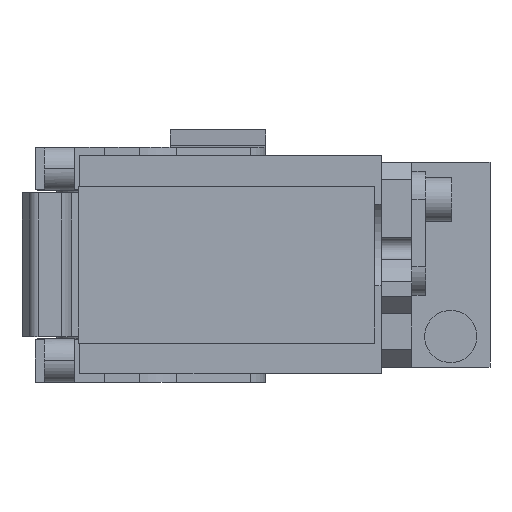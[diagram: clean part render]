
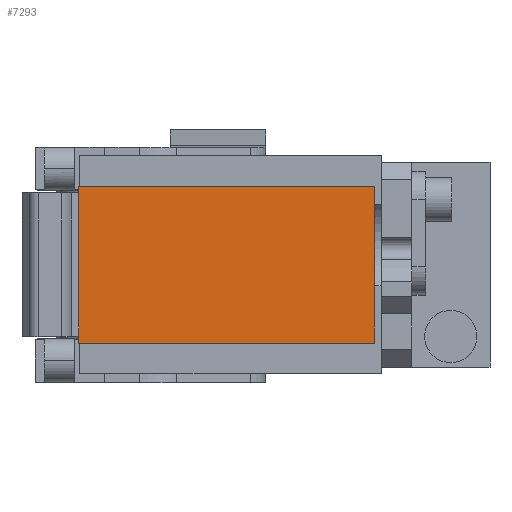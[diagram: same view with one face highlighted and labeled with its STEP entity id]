
A CAD part, front view. The second image highlights one B-rep face of the part: STEP entity #7293.
In plain terms, the highlighted planar face has unit normal (0, -1, 0).
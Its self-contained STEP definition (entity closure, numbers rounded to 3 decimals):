
#871 = CARTESIAN_POINT ( 'NONE',  ( -6., -233., 18. ) ) ;
#1617 = VECTOR ( 'NONE', #4218, 1000. ) ;
#1772 = PLANE ( 'NONE',  #11051 ) ;
#2294 = LINE ( 'NONE', #4302, #7251 ) ;
#2329 = CARTESIAN_POINT ( 'NONE',  ( 62., -233., -18. ) ) ;
#2448 = ORIENTED_EDGE ( 'NONE', *, *, #9805, .T. ) ;
#3059 = LINE ( 'NONE', #14132, #1617 ) ;
#3512 = CARTESIAN_POINT ( 'NONE',  ( -6., -233., -18. ) ) ;
#3620 = VERTEX_POINT ( 'NONE', #7183 ) ;
#4035 = DIRECTION ( 'NONE',  ( 1., 0., 0. ) ) ;
#4090 = FACE_OUTER_BOUND ( 'NONE', #8319, .T. ) ;
#4218 = DIRECTION ( 'NONE',  ( 0., 0., -1. ) ) ;
#4302 = CARTESIAN_POINT ( 'NONE',  ( 62., -233., 18. ) ) ;
#5123 = LINE ( 'NONE', #13949, #11882 ) ;
#5238 = ORIENTED_EDGE ( 'NONE', *, *, #8049, .T. ) ;
#5289 = DIRECTION ( 'NONE',  ( -1., 0., 0. ) ) ;
#6201 = CARTESIAN_POINT ( 'NONE',  ( 0., -233., 0. ) ) ;
#7183 = CARTESIAN_POINT ( 'NONE',  ( 62., -233., 18. ) ) ;
#7251 = VECTOR ( 'NONE', #13299, 1000. ) ;
#7293 = ADVANCED_FACE ( 'NONE', ( #4090 ), #1772, .T. ) ;
#7574 = VERTEX_POINT ( 'NONE', #3512 ) ;
#7934 = VERTEX_POINT ( 'NONE', #8543 ) ;
#8049 = EDGE_CURVE ( 'NONE', #3620, #7934, #14243, .T. ) ;
#8319 = EDGE_LOOP ( 'NONE', ( #9844, #2448, #8858, #5238 ) ) ;
#8543 = CARTESIAN_POINT ( 'NONE',  ( -6., -233., 18. ) ) ;
#8858 = ORIENTED_EDGE ( 'NONE', *, *, #9873, .T. ) ;
#9399 = VECTOR ( 'NONE', #5289, 1000. ) ;
#9522 = DIRECTION ( 'NONE',  ( 0., 0., -1. ) ) ;
#9805 = EDGE_CURVE ( 'NONE', #7574, #11577, #5123, .T. ) ;
#9844 = ORIENTED_EDGE ( 'NONE', *, *, #12129, .T. ) ;
#9873 = EDGE_CURVE ( 'NONE', #11577, #3620, #2294, .T. ) ;
#10750 = DIRECTION ( 'NONE',  ( 0., -1., 0. ) ) ;
#11051 = AXIS2_PLACEMENT_3D ( 'NONE', #6201, #10750, #9522 ) ;
#11577 = VERTEX_POINT ( 'NONE', #2329 ) ;
#11882 = VECTOR ( 'NONE', #4035, 1000. ) ;
#12129 = EDGE_CURVE ( 'NONE', #7934, #7574, #3059, .T. ) ;
#13299 = DIRECTION ( 'NONE',  ( 0., 0., 1. ) ) ;
#13949 = CARTESIAN_POINT ( 'NONE',  ( -6., -233., -18. ) ) ;
#14132 = CARTESIAN_POINT ( 'NONE',  ( -6., -233., 18. ) ) ;
#14243 = LINE ( 'NONE', #871, #9399 ) ;
